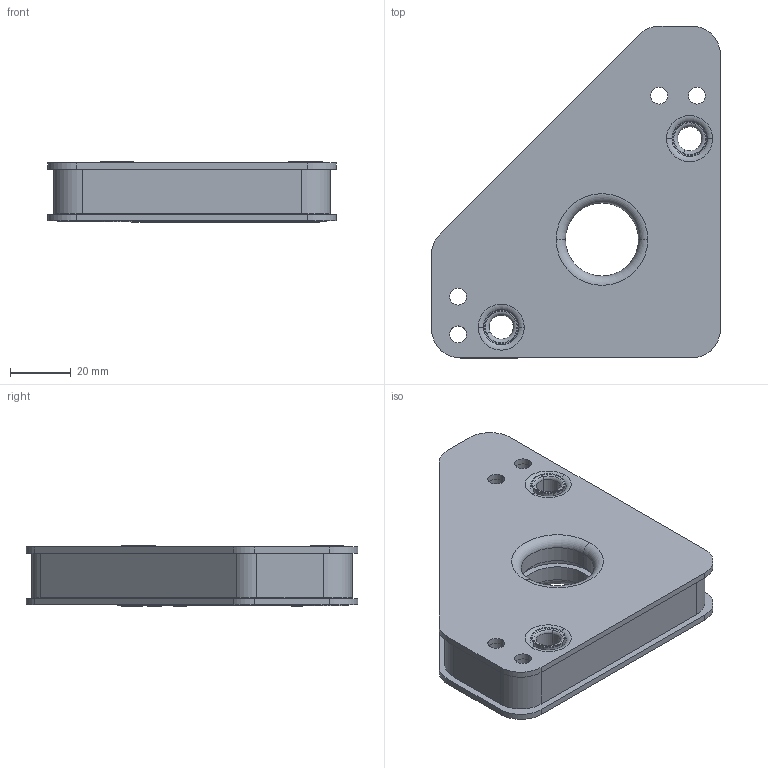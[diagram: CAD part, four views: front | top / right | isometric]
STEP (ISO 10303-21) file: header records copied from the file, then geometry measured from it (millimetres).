
FILE_DESCRIPTION (( 'STEP AP203' ), '1' );
FILE_NAME ('WS410.STEP', '2018-08-21T12:33:40', ( '' ), ( '' ), 'SwSTEP 2.0', 'SolidWorks 2015', '' );
FILE_SCHEMA (( 'CONFIG_CONTROL_DESIGN' ));
Length unit declared in the file: inch
Products named in the file (1): WS410
Bounding box: 95.25 x 109.47 x 19.95 mm (x, y, z)
Volume: 106130.4 mm3; surface area: 75480.3 mm2
Topology: 7 solids, 7 shells, 1070 faces, 2901 edges, 1918 vertices
Faces by surface type: plane 554, bspline 367, cylinder 93, torus 32, cone 24
Entity records: 35528 total; most frequent: CARTESIAN_POINT 10657, ORIENTED_EDGE 5802, DIRECTION 3857, EDGE_CURVE 2901, VERTEX_POINT 1918, LINE 1885, VECTOR 1885, EDGE_LOOP 1193
